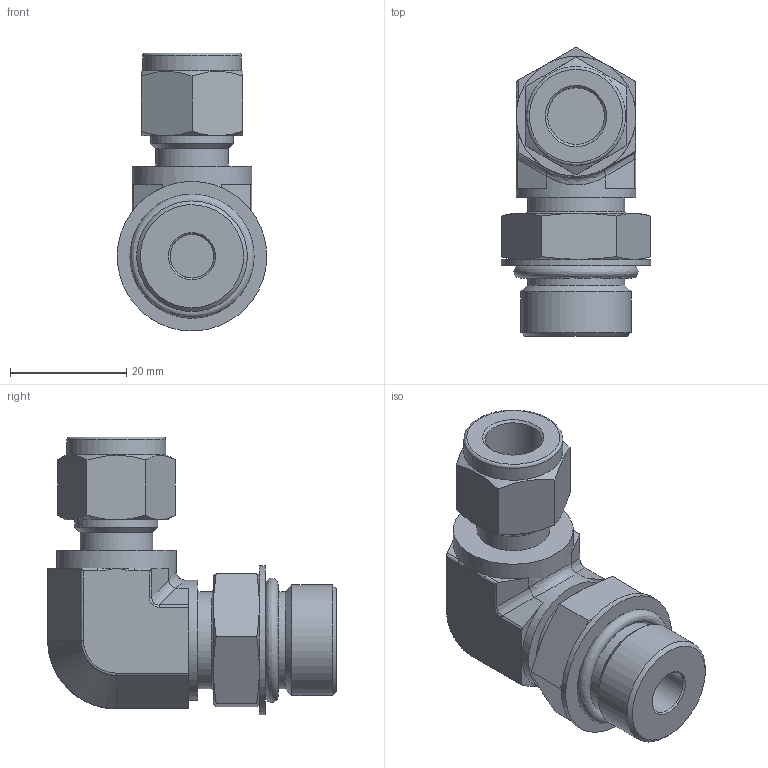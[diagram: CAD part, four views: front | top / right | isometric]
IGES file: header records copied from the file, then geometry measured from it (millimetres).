
Global section: file name: SPME-6-8U; native system: Autodesk Inventor 2016; preprocessor: unknown; author: DESIGNPC2; date: 20160115.104342; units: millimetre
Bounding box: 25.7 x 49.62 x 47.75 mm (x, y, z)
Volume: 20486.4 mm3; surface area: 9009.1 mm2
Topology: 4 solids, 4 shells, 125 faces, 302 edges, 190 vertices
Faces by surface type: bspline 125
